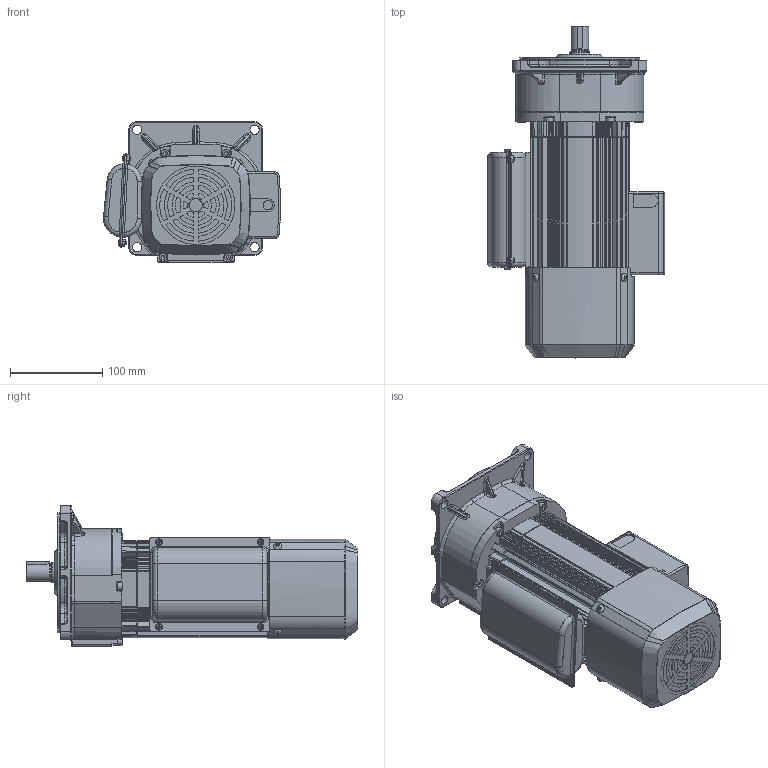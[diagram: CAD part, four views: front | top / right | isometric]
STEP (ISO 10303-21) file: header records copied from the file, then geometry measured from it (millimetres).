
FILE_DESCRIPTION( ( 'Unknown' ), '1' );
FILE_NAME( 'W:/gm/3D-WEB/GM-SS(単相)/完成品/パーツ/完成品/完成品(GM-SS_ﾌﾗﾝｼﾞ取付_0.2kW_ﾌﾞﾚｰｷ付き_B).stp', 'Unknown', ( 'Unknown' ), ( 'Unknown' ), 'PSStep 11.0', 'Unknown', ' ' );
FILE_SCHEMA( ( 'AUTOMOTIVE_DESIGN { 1 0 10303 214 1 1 1 1 }' ) );
Length unit declared in the file: millimetre
Products named in the file (6): P264972_端子箱ｹｰｽ+PF03388_端子箱ｶﾊﾞｰ(ﾌﾞ
Bounding box: 191.87 x 359.5 x 152.5 mm (x, y, z)
Volume: 2933953.6 mm3; surface area: 448582.7 mm2
Topology: 6 solids, 33 shells, 1842 faces, 4797 edges, 3079 vertices
Faces by surface type: cylinder 800, plane 779, bspline 97, torus 94, cone 64, offset 6, sphere 2
Full cylindrical faces by diameter (mm): 3.3 x6, 3.8 x8, 4 x4, 4.2 x6, 4.5 x8, 4.8 x10, 4.917 x1, 5 x8, 5.5 x6, 6 x2, 6.2 x1, 6.5 x2, 7 x8, 8.5 x6, 10 x5, 12 x1, 14 x2, 15 x1, 16 x1, 18.7 x1, 19 x1, 22 x1, 22.049 x1, 35 x1, 85 x1, 100 x1, 100.5 x2, 105 x1, 122 x1, 130 x1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
Entity records: 83896 total; most frequent: CARTESIAN_POINT 24275, DIRECTION 9522, ORIENTED_EDGE 9124, EDGE_CURVE 4562, AXIS2_PLACEMENT_3D 3679, VERTEX_POINT 3020, LINE 2164, VECTOR 2164
